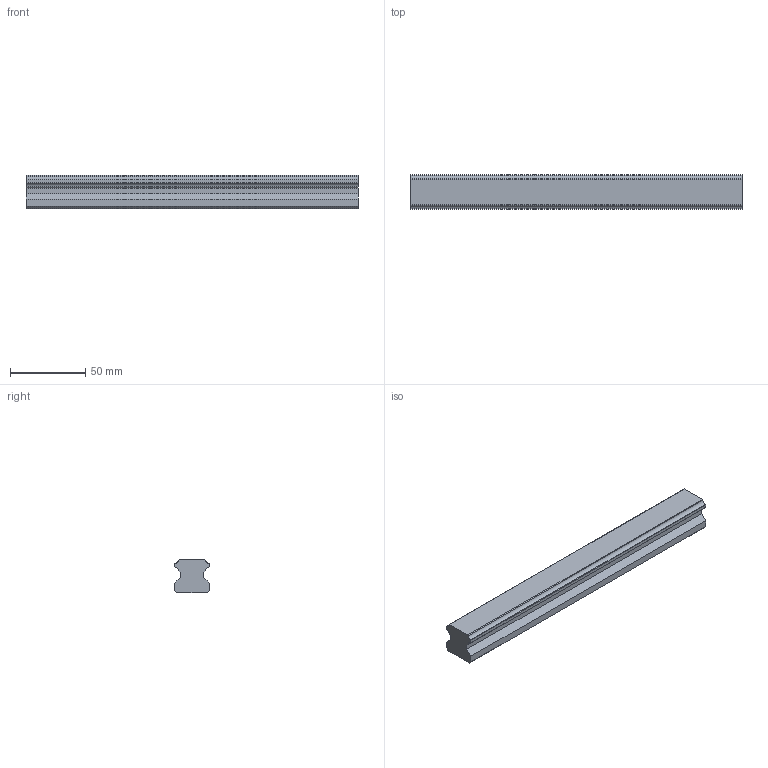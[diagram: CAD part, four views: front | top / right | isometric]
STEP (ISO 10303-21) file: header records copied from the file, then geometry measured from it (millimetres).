
FILE_DESCRIPTION(('starvars output'),'2;1');
FILE_NAME('cv20190626230443000044814.stp','23:04:43 2019/06/26',( 'Thomas Industrial Network Germany GmbH'),( 'Thomas Industrial Network Germany GmbH'),'unknown preprocess','ACIS' ,'unknown authorization');
FILE_SCHEMA(('CONFIG_CONTROL_DESIGN {UNKNOWN IMPLEMENTATION LEVEL}'));
Length unit declared in the file: millimetre
Products named in the file (1): PRODUCT_ID_2
Bounding box: 220 x 23 x 22 mm (x, y, z)
Volume: 94719.9 mm3; surface area: 22023.6 mm2
Topology: 1 solids, 1 shells, 70 faces, 168 edges, 100 vertices
Faces by surface type: plane 26, cone 24, cylinder 20
Entity records: 1825 total; most frequent: ORIENTED_EDGE 320, CARTESIAN_POINT 286, DIRECTION 268, EDGE_CURVE 160, VECTOR 104, LINE 104, VERTEX_POINT 100, AXIS2_PLACEMENT_3D 82
